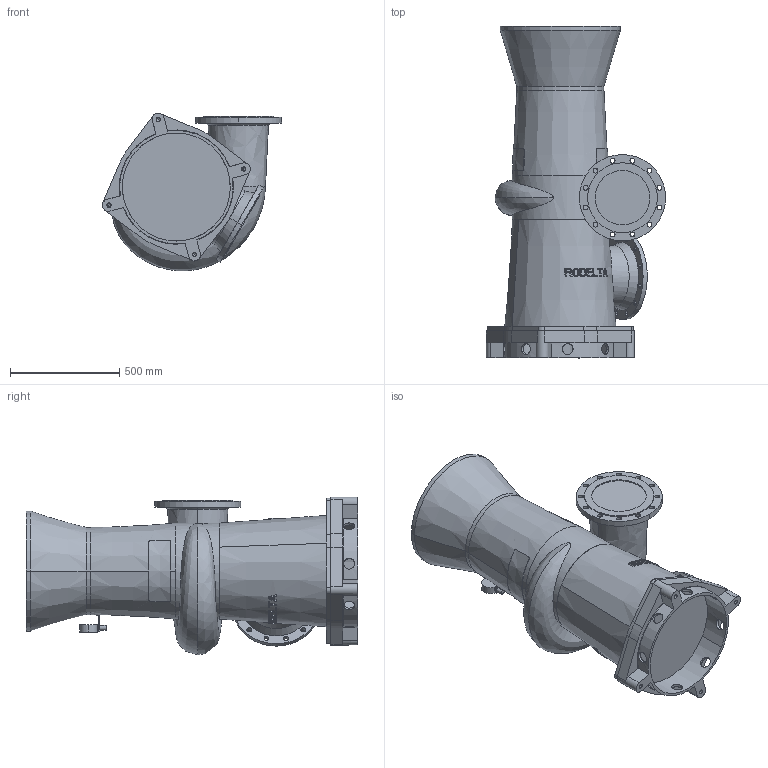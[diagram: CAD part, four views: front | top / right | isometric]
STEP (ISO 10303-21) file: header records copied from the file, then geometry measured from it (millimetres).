
FILE_DESCRIPTION((''),'2;1');
FILE_NAME('8310_VOOR_BLAD_ASM','2024-07-25T',('Lyritlocal'),(''),'PRO/ENGINEER BY PARAMETRIC TECHNOLOGY CORPORATION, 2016360','PRO/ENGINEER BY PARAMETRIC TECHNOLOGY CORPORATION, 2016360','');
FILE_SCHEMA(('CONFIG_CONTROL_DESIGN'));
Length unit declared in the file: millimetre
Products named in the file (3): 8310; 8310_VOET; 8310_VOOR_BLAD_ASM
Assembly tree (2 placements, depth 2):
  8310_VOOR_BLAD_ASM
    8310
    8310_VOET
Bounding box: 821.45 x 1521 x 723.07 mm (x, y, z)
Volume: 290401681.4 mm3; surface area: 4473475.7 mm2
Topology: 2 solids, 6 shells, 545 faces, 1466 edges, 969 vertices
Faces by surface type: plane 342, cylinder 153, cone 40, bspline 6, torus 4
Entity records: 19407 total; most frequent: CARTESIAN_POINT 6110, ORIENTED_EDGE 2900, DIRECTION 2489, EDGE_CURVE 1458, VERTEX_POINT 969, AXIS2_PLACEMENT_3D 967, EDGE_LOOP 661, VECTOR 555
